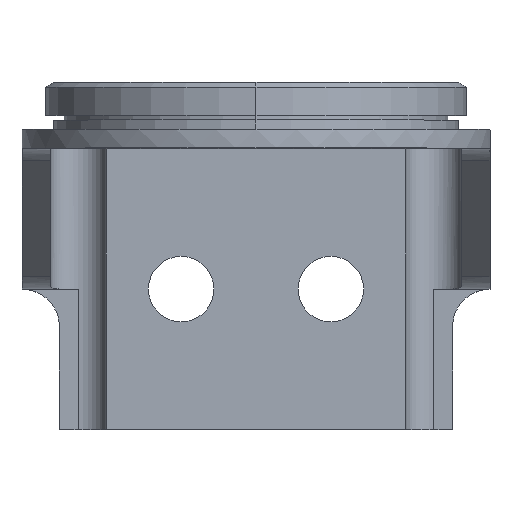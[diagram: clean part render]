
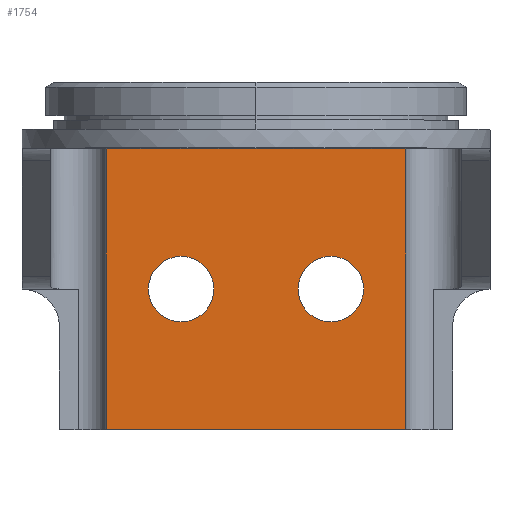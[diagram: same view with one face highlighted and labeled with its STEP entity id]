
A CAD part, top view. The second image highlights one B-rep face of the part: STEP entity #1754.
In plain terms, the highlighted planar face has unit normal (0, 0, 1).
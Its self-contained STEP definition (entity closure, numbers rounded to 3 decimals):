
#11 = CARTESIAN_POINT ( 'NONE',  ( 5.75, 0., -13. ) ) ;
#124 = LINE ( 'NONE', #1921, #2178 ) ;
#134 = VERTEX_POINT ( 'NONE', #1861 ) ;
#146 = DIRECTION ( 'NONE',  ( 0., 0., -1. ) ) ;
#157 = AXIS2_PLACEMENT_3D ( 'NONE', #2004, #1503, #615 ) ;
#164 = DIRECTION ( 'NONE',  ( 0., -1., 0. ) ) ;
#166 = VERTEX_POINT ( 'NONE', #640 ) ;
#204 = VECTOR ( 'NONE', #729, 1000. ) ;
#224 = CARTESIAN_POINT ( 'NONE',  ( -12.5, 7.5, -13. ) ) ;
#230 = CARTESIAN_POINT ( 'NONE',  ( -12.5, 7.5, -13. ) ) ;
#251 = DIRECTION ( 'NONE',  ( 0., -1., 0. ) ) ;
#254 = EDGE_CURVE ( 'NONE', #2055, #801, #494, .T. ) ;
#262 = AXIS2_PLACEMENT_3D ( 'NONE', #224, #1444, #566 ) ;
#285 = DIRECTION ( 'NONE',  ( 0., -1., 0. ) ) ;
#304 = LINE ( 'NONE', #1639, #821 ) ;
#429 = CARTESIAN_POINT ( 'NONE',  ( -2.25, 0., -13. ) ) ;
#479 = EDGE_CURVE ( 'NONE', #667, #166, #2046, .T. ) ;
#494 = CIRCLE ( 'NONE', #1248, 1.75 ) ;
#548 = VECTOR ( 'NONE', #1116, 1000. ) ;
#562 = PLANE ( 'NONE',  #262 ) ;
#566 = DIRECTION ( 'NONE',  ( 0., -1., 0. ) ) ;
#606 = CARTESIAN_POINT ( 'NONE',  ( -8., 7.5, -13. ) ) ;
#615 = DIRECTION ( 'NONE',  ( 0., -1., 0. ) ) ;
#638 = EDGE_LOOP ( 'NONE', ( #1243, #1572 ) ) ;
#640 = CARTESIAN_POINT ( 'NONE',  ( 8., 7.5, -13. ) ) ;
#667 = VERTEX_POINT ( 'NONE', #606 ) ;
#675 = EDGE_CURVE ( 'NONE', #2029, #1997, #1937, .T. ) ;
#697 = ORIENTED_EDGE ( 'NONE', *, *, #479, .F. ) ;
#715 = VERTEX_POINT ( 'NONE', #1491 ) ;
#729 = DIRECTION ( 'NONE',  ( 0., -1., 0. ) ) ;
#753 = EDGE_CURVE ( 'NONE', #134, #715, #304, .T. ) ;
#754 = AXIS2_PLACEMENT_3D ( 'NONE', #796, #804, #251 ) ;
#796 = CARTESIAN_POINT ( 'NONE',  ( -4., 0., -13. ) ) ;
#801 = VERTEX_POINT ( 'NONE', #11 ) ;
#804 = DIRECTION ( 'NONE',  ( 0., 0., -1. ) ) ;
#821 = VECTOR ( 'NONE', #1147, 1000. ) ;
#847 = EDGE_CURVE ( 'NONE', #667, #134, #1907, .T. ) ;
#848 = FACE_BOUND ( 'NONE', #638, .T. ) ;
#863 = EDGE_CURVE ( 'NONE', #166, #715, #124, .T. ) ;
#1116 = DIRECTION ( 'NONE',  ( 1., 0., 0. ) ) ;
#1140 = EDGE_LOOP ( 'NONE', ( #1220, #1730 ) ) ;
#1147 = DIRECTION ( 'NONE',  ( 1., 0., 0. ) ) ;
#1189 = CARTESIAN_POINT ( 'NONE',  ( 4., 0., -13. ) ) ;
#1220 = ORIENTED_EDGE ( 'NONE', *, *, #254, .T. ) ;
#1243 = ORIENTED_EDGE ( 'NONE', *, *, #675, .T. ) ;
#1248 = AXIS2_PLACEMENT_3D ( 'NONE', #1189, #146, #164 ) ;
#1307 = CARTESIAN_POINT ( 'NONE',  ( 2.25, 0., -13. ) ) ;
#1311 = EDGE_CURVE ( 'NONE', #1997, #2029, #1379, .T. ) ;
#1379 = CIRCLE ( 'NONE', #2176, 1.75 ) ;
#1382 = ORIENTED_EDGE ( 'NONE', *, *, #753, .T. ) ;
#1408 = CARTESIAN_POINT ( 'NONE',  ( -8., 11.743, -13. ) ) ;
#1444 = DIRECTION ( 'NONE',  ( 0., 0., -1. ) ) ;
#1491 = CARTESIAN_POINT ( 'NONE',  ( 8., -7.5, -13. ) ) ;
#1501 = DIRECTION ( 'NONE',  ( 0., 0., -1. ) ) ;
#1503 = DIRECTION ( 'NONE',  ( 0., 0., -1. ) ) ;
#1545 = ORIENTED_EDGE ( 'NONE', *, *, #863, .F. ) ;
#1563 = EDGE_LOOP ( 'NONE', ( #1545, #697, #1942, #1382 ) ) ;
#1572 = ORIENTED_EDGE ( 'NONE', *, *, #1311, .T. ) ;
#1639 = CARTESIAN_POINT ( 'NONE',  ( -12.5, -7.5, -13. ) ) ;
#1663 = CARTESIAN_POINT ( 'NONE',  ( -4., 0., -13. ) ) ;
#1730 = ORIENTED_EDGE ( 'NONE', *, *, #2012, .T. ) ;
#1754 = ADVANCED_FACE ( 'NONE', ( #1779, #848, #2043 ), #562, .F. ) ;
#1772 = CIRCLE ( 'NONE', #157, 1.75 ) ;
#1779 = FACE_BOUND ( 'NONE', #1140, .T. ) ;
#1834 = CARTESIAN_POINT ( 'NONE',  ( -5.75, 0., -13. ) ) ;
#1861 = CARTESIAN_POINT ( 'NONE',  ( -8., -7.5, -13. ) ) ;
#1907 = LINE ( 'NONE', #1408, #204 ) ;
#1921 = CARTESIAN_POINT ( 'NONE',  ( 8., 11.743, -13. ) ) ;
#1937 = CIRCLE ( 'NONE', #754, 1.75 ) ;
#1942 = ORIENTED_EDGE ( 'NONE', *, *, #847, .T. ) ;
#1997 = VERTEX_POINT ( 'NONE', #429 ) ;
#2004 = CARTESIAN_POINT ( 'NONE',  ( 4., 0., -13. ) ) ;
#2012 = EDGE_CURVE ( 'NONE', #801, #2055, #1772, .T. ) ;
#2029 = VERTEX_POINT ( 'NONE', #1834 ) ;
#2043 = FACE_OUTER_BOUND ( 'NONE', #1563, .T. ) ;
#2046 = LINE ( 'NONE', #230, #548 ) ;
#2055 = VERTEX_POINT ( 'NONE', #1307 ) ;
#2090 = DIRECTION ( 'NONE',  ( 0., -1., 0. ) ) ;
#2176 = AXIS2_PLACEMENT_3D ( 'NONE', #1663, #1501, #285 ) ;
#2178 = VECTOR ( 'NONE', #2090, 1000. ) ;
